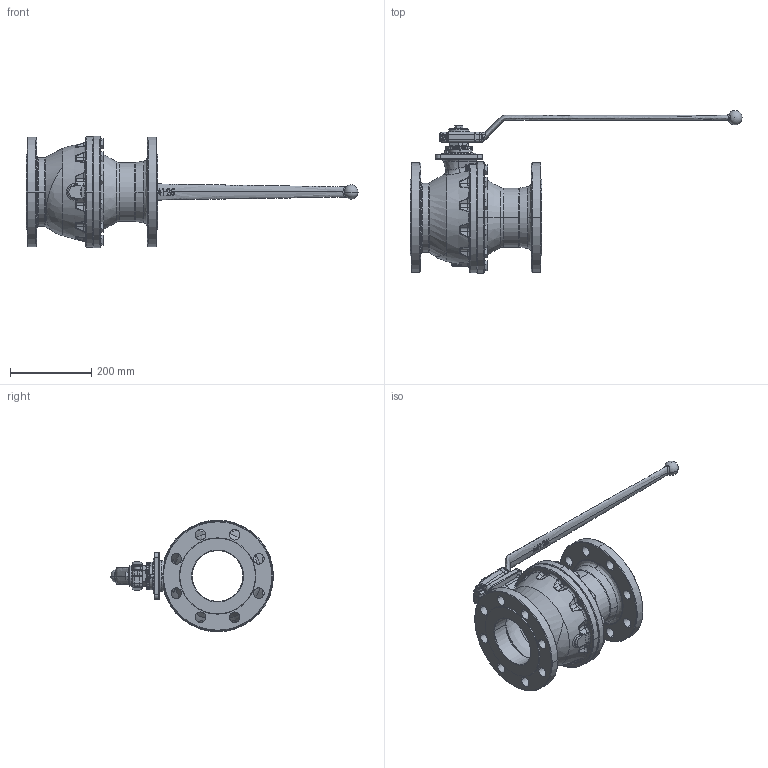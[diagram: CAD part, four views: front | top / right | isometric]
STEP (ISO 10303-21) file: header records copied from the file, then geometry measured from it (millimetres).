
FILE_DESCRIPTION (( 'STEP AP214' ), '1' );
FILE_NAME ('0540125 con maneta.STEP', '2016-10-08T17:41:43', ( '' ), ( '' ), 'SwSTEP 2.0', 'SolidWorks 2016', '' );
FILE_SCHEMA (( 'AUTOMOTIVE_DESIGN' ));
Length unit declared in the file: millimetre
Products named in the file (18): 5182_07; 5182_10-1; EPI125Q; JT125FV (45x35x2); 5282_46; DIN 6325 - Ø8x20; 0540125L; 00820920; P125G (45x35x6,4)_Comprimida; DIN 933 - M12 x 20_DIN 933 - M12 x 20; 0540125C; DIN 912 - M10 x 30_DIN 912 M10 x 30; 5182_17; DIN 933 - M14 x 35_DIN 933 - M14 x 35; 0540125 con maneta; 5182_08; M125CHST; 200125_41
Assembly tree (31 placements, depth 2):
  0540125 con maneta
    0540125C
    0540125L
    EPI125Q
    P125G (45x35x6,4)_Comprimida  x3
    5182_10-1
    JT125FV (45x35x2)
    00820920
    200125_41
    5182_08  x2
    5282_46
    5182_07
    DIN 6325 - Ø8x20
    M125CHST
    5182_17
    DIN 912 - M10 x 30_DIN 912 M10 x 30
    DIN 933 - M12 x 20_DIN 933 - M12 x 20
    DIN 933 - M14 x 35_DIN 933 - M14 x 35  x12
Bounding box: 817.5 x 401.1 x 275 mm (x, y, z)
Volume: 5557106.8 mm3; surface area: 894920.3 mm2
Topology: 31 solids, 31 shells, 1432 faces, 3420 edges, 1999 vertices
Faces by surface type: plane 394, cylinder 387, bspline 331, cone 233, torus 77, sphere 10
Entity records: 63314 total; most frequent: CARTESIAN_POINT 38900, ORIENTED_EDGE 5278, DIRECTION 4394, EDGE_CURVE 2639, AXIS2_PLACEMENT_3D 1838, VERTEX_POINT 1596, EDGE_LOOP 1225, FACE_OUTER_BOUND 1093
